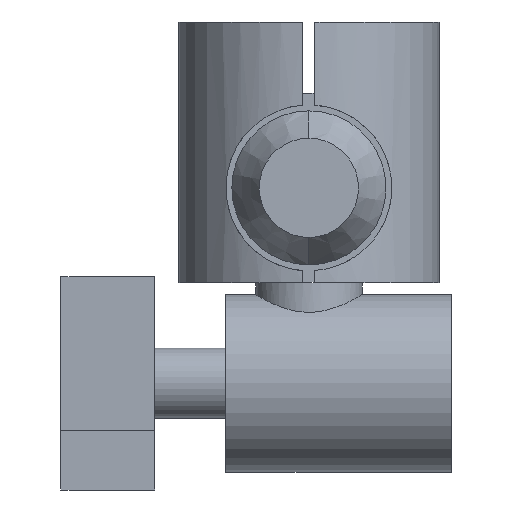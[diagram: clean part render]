
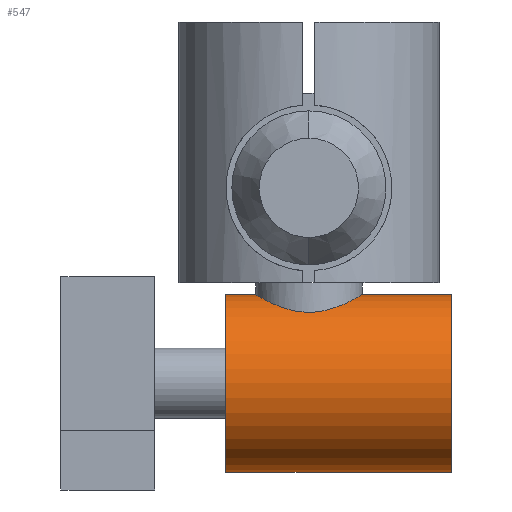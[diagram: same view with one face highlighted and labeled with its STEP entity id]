
A CAD part, front view. The second image highlights one B-rep face of the part: STEP entity #547.
In plain terms, the highlighted cylindrical face has radius 7.5 mm (diameter 15 mm), a partial arc.
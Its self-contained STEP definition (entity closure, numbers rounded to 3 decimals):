
#491 = ORIENTED_EDGE ( 'NONE', *, *, #492, .T. ) ;
#492 = EDGE_CURVE ( 'NONE', #595, #544, #1597, .T. ) ;
#543 = VERTEX_POINT ( 'NONE', #1700 ) ;
#544 = VERTEX_POINT ( 'NONE', #1699 ) ;
#546 = EDGE_CURVE ( 'NONE', #543, #544, #1698, .T. ) ;
#547 = ADVANCED_FACE ( 'NONE', ( #1693 ), #1692, .T. ) ;
#548 = EDGE_LOOP ( 'NONE', ( #549, #550, #585, #491 ) ) ;
#549 = ORIENTED_EDGE ( 'NONE', *, *, #546, .F. ) ;
#550 = ORIENTED_EDGE ( 'NONE', *, *, #584, .T. ) ;
#584 = EDGE_CURVE ( 'NONE', #543, #594, #1753, .T. ) ;
#585 = ORIENTED_EDGE ( 'NONE', *, *, #593, .T. ) ;
#593 = EDGE_CURVE ( 'NONE', #594, #595, #1743, .T. ) ;
#594 = VERTEX_POINT ( 'NONE', #1738 ) ;
#595 = VERTEX_POINT ( 'NONE', #1737 ) ;
#623 = DIRECTION ( 'NONE',  ( 0., 0., 1. ) ) ;
#898 = AXIS2_PLACEMENT_3D ( 'NONE', #1430, #1691, #623 ) ;
#1430 = CARTESIAN_POINT ( 'NONE',  ( 12., 0., -16.5 ) ) ;
#1594 = DIRECTION ( 'NONE',  ( 1., 0., 0. ) ) ;
#1595 = VECTOR ( 'NONE', #1594, 1000. ) ;
#1596 = CARTESIAN_POINT ( 'NONE',  ( 12., -0.475, -23.985 ) ) ;
#1597 = LINE ( 'NONE', #1596, #1595 ) ;
#1691 = DIRECTION ( 'NONE',  ( -1., 0., 0. ) ) ;
#1692 = CYLINDRICAL_SURFACE ( 'NONE', #898, 7.5 ) ;
#1693 = FACE_OUTER_BOUND ( 'NONE', #548, .T. ) ;
#1694 = DIRECTION ( 'NONE',  ( 0., 0., -1. ) ) ;
#1695 = DIRECTION ( 'NONE',  ( 1., 0., 0. ) ) ;
#1696 = CARTESIAN_POINT ( 'NONE',  ( 12., 0., -16.5 ) ) ;
#1697 = AXIS2_PLACEMENT_3D ( 'NONE', #1696, #1695, #1694 ) ;
#1698 = CIRCLE ( 'NONE', #1697, 7.5 ) ;
#1699 = CARTESIAN_POINT ( 'NONE',  ( 12., -0.475, -23.985 ) ) ;
#1700 = CARTESIAN_POINT ( 'NONE',  ( 12., -0.475, -9.015 ) ) ;
#1737 = CARTESIAN_POINT ( 'NONE',  ( -7., -0.475, -23.985 ) ) ;
#1738 = CARTESIAN_POINT ( 'NONE',  ( -7., -0.475, -9.015 ) ) ;
#1739 = DIRECTION ( 'NONE',  ( 0., 0., -1. ) ) ;
#1740 = DIRECTION ( 'NONE',  ( 1., 0., 0. ) ) ;
#1741 = CARTESIAN_POINT ( 'NONE',  ( -7., 0., -16.5 ) ) ;
#1742 = AXIS2_PLACEMENT_3D ( 'NONE', #1741, #1740, #1739 ) ;
#1743 = CIRCLE ( 'NONE', #1742, 7.5 ) ;
#1750 = DIRECTION ( 'NONE',  ( -1., 0., 0. ) ) ;
#1751 = VECTOR ( 'NONE', #1750, 1000. ) ;
#1752 = CARTESIAN_POINT ( 'NONE',  ( 12., -0.475, -9.015 ) ) ;
#1753 = LINE ( 'NONE', #1752, #1751 ) ;
